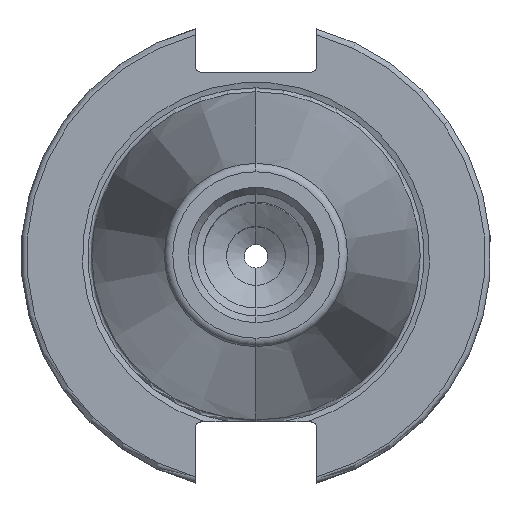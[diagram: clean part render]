
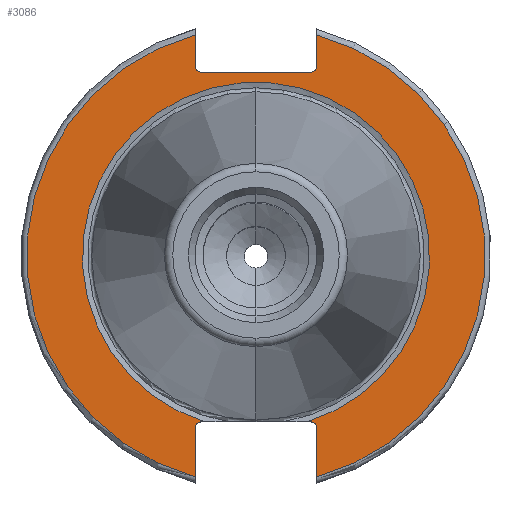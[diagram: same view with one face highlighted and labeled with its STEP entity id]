
A CAD part, top view. The second image highlights one B-rep face of the part: STEP entity #3086.
In plain terms, the highlighted planar face has unit normal (0, 0, 1).
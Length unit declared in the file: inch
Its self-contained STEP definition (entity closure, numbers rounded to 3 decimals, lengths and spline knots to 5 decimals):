
#11 = CARTESIAN_POINT ( 'NONE',  ( -0.27356, -0.8825, -0.125 ) ) ;
#48 = LINE ( 'NONE', #2393, #1151 ) ;
#52 = DIRECTION ( 'NONE',  ( 1., 0., 0. ) ) ;
#82 = EDGE_CURVE ( 'NONE', #2000, #1690, #2069, .T. ) ;
#97 = CARTESIAN_POINT ( 'NONE',  ( 1.22, 0.9775, -0.125 ) ) ;
#130 = EDGE_CURVE ( 'NONE', #1447, #787, #307, .T. ) ;
#140 = VERTEX_POINT ( 'NONE', #2355 ) ;
#151 = DIRECTION ( 'NONE',  ( 0., -1., 0. ) ) ;
#181 = VECTOR ( 'NONE', #1178, 39.37008 ) ;
#223 = ORIENTED_EDGE ( 'NONE', *, *, #3311, .T. ) ;
#274 = EDGE_CURVE ( 'NONE', #787, #3413, #2252, .T. ) ;
#279 = CARTESIAN_POINT ( 'NONE',  ( 0.27356, -0.8825, -0.125 ) ) ;
#291 = DIRECTION ( 'NONE',  ( 0., -1., 0. ) ) ;
#297 = VERTEX_POINT ( 'NONE', #1932 ) ;
#307 = LINE ( 'NONE', #638, #181 ) ;
#365 = ORIENTED_EDGE ( 'NONE', *, *, #542, .F. ) ;
#381 = LINE ( 'NONE', #97, #2401 ) ;
#453 = AXIS2_PLACEMENT_3D ( 'NONE', #1477, #3555, #2341 ) ;
#466 = LINE ( 'NONE', #713, #1860 ) ;
#503 = CARTESIAN_POINT ( 'NONE',  ( -0.3225, 1.1766, -0.125 ) ) ;
#542 = EDGE_CURVE ( 'NONE', #1133, #2000, #633, .T. ) ;
#580 = CARTESIAN_POINT ( 'NONE',  ( 0.3225, 0., -0.125 ) ) ;
#581 = CARTESIAN_POINT ( 'NONE',  ( 0.3225, 1.1766, -0.125 ) ) ;
#596 = EDGE_CURVE ( 'NONE', #1447, #771, #2951, .T. ) ;
#600 = DIRECTION ( 'NONE',  ( 0., -1., 0. ) ) ;
#606 = DIRECTION ( 'NONE',  ( 0., -1., 0. ) ) ;
#633 = CIRCLE ( 'NONE', #2114, 1.22 ) ;
#638 = CARTESIAN_POINT ( 'NONE',  ( 0.3225, 0., -0.125 ) ) ;
#642 = CARTESIAN_POINT ( 'NONE',  ( 0.2925, -0.8825, -0.125 ) ) ;
#660 = DIRECTION ( 'NONE',  ( 0., 0., -1. ) ) ;
#683 = VERTEX_POINT ( 'NONE', #642 ) ;
#713 = CARTESIAN_POINT ( 'NONE',  ( -0.3225, 0., -0.125 ) ) ;
#771 = VERTEX_POINT ( 'NONE', #3752 ) ;
#786 = AXIS2_PLACEMENT_3D ( 'NONE', #1184, #2343, #606 ) ;
#787 = VERTEX_POINT ( 'NONE', #581 ) ;
#796 = VERTEX_POINT ( 'NONE', #2656 ) ;
#819 = ORIENTED_EDGE ( 'NONE', *, *, #1413, .T. ) ;
#870 = CARTESIAN_POINT ( 'NONE',  ( -0.3225, 1.0075, -0.125 ) ) ;
#898 = VERTEX_POINT ( 'NONE', #11 ) ;
#1005 = CARTESIAN_POINT ( 'NONE',  ( 0.3225, -0.9125, -0.125 ) ) ;
#1048 = EDGE_CURVE ( 'NONE', #683, #3452, #2024, .T. ) ;
#1064 = AXIS2_PLACEMENT_3D ( 'NONE', #1598, #3001, #3022 ) ;
#1133 = VERTEX_POINT ( 'NONE', #2240 ) ;
#1151 = VECTOR ( 'NONE', #2107, 39.37008 ) ;
#1159 = DIRECTION ( 'NONE',  ( 0., 0., -1. ) ) ;
#1178 = DIRECTION ( 'NONE',  ( 0., 1., 0. ) ) ;
#1184 = CARTESIAN_POINT ( 'NONE',  ( 1.22, 0., -0.125 ) ) ;
#1186 = EDGE_LOOP ( 'NONE', ( #1977, #365, #1218, #2538, #2176, #2943, #223, #2168, #1376, #2402, #1403, #2717, #3420, #819 ) ) ;
#1218 = ORIENTED_EDGE ( 'NONE', *, *, #2277, .T. ) ;
#1246 = VERTEX_POINT ( 'NONE', #279 ) ;
#1253 = DIRECTION ( 'NONE',  ( 0., 1., 0. ) ) ;
#1288 = DIRECTION ( 'NONE',  ( 0., -1., 0. ) ) ;
#1314 = CARTESIAN_POINT ( 'NONE',  ( 0.3225, -1.1766, -0.125 ) ) ;
#1376 = ORIENTED_EDGE ( 'NONE', *, *, #1779, .T. ) ;
#1388 = EDGE_CURVE ( 'NONE', #297, #796, #2705, .T. ) ;
#1403 = ORIENTED_EDGE ( 'NONE', *, *, #130, .F. ) ;
#1413 = EDGE_CURVE ( 'NONE', #140, #1690, #1739, .T. ) ;
#1447 = VERTEX_POINT ( 'NONE', #2763 ) ;
#1477 = CARTESIAN_POINT ( 'NONE',  ( 0.2925, 1.0075, -0.125 ) ) ;
#1546 = DIRECTION ( 'NONE',  ( 1., 0., 0. ) ) ;
#1572 = AXIS2_PLACEMENT_3D ( 'NONE', #2787, #660, #1253 ) ;
#1598 = CARTESIAN_POINT ( 'NONE',  ( -0.2925, 1.0075, -0.125 ) ) ;
#1690 = VERTEX_POINT ( 'NONE', #870 ) ;
#1697 = CARTESIAN_POINT ( 'NONE',  ( 0., 0., -0.125 ) ) ;
#1739 = CIRCLE ( 'NONE', #1064, 0.03 ) ;
#1754 = EDGE_CURVE ( 'NONE', #898, #1246, #3129, .T. ) ;
#1779 = EDGE_CURVE ( 'NONE', #3452, #3413, #1991, .T. ) ;
#1825 = LINE ( 'NONE', #2397, #3782 ) ;
#1860 = VECTOR ( 'NONE', #2196, 39.37008 ) ;
#1932 = CARTESIAN_POINT ( 'NONE',  ( -0.3225, -0.9125, -0.125 ) ) ;
#1977 = ORIENTED_EDGE ( 'NONE', *, *, #82, .F. ) ;
#1991 = LINE ( 'NONE', #580, #3073 ) ;
#2000 = VERTEX_POINT ( 'NONE', #503 ) ;
#2024 = CIRCLE ( 'NONE', #2520, 0.03 ) ;
#2069 = LINE ( 'NONE', #3217, #2213 ) ;
#2107 = DIRECTION ( 'NONE',  ( 1., 0., 0. ) ) ;
#2114 = AXIS2_PLACEMENT_3D ( 'NONE', #1697, #3734, #3167 ) ;
#2155 = CARTESIAN_POINT ( 'NONE',  ( -0.2925, -0.9125, -0.125 ) ) ;
#2168 = ORIENTED_EDGE ( 'NONE', *, *, #1048, .T. ) ;
#2173 = DIRECTION ( 'NONE',  ( 0., 0., -1. ) ) ;
#2176 = ORIENTED_EDGE ( 'NONE', *, *, #3257, .T. ) ;
#2196 = DIRECTION ( 'NONE',  ( 0., 1., 0. ) ) ;
#2199 = EDGE_CURVE ( 'NONE', #140, #771, #381, .T. ) ;
#2213 = VECTOR ( 'NONE', #600, 39.37008 ) ;
#2240 = CARTESIAN_POINT ( 'NONE',  ( -0.3225, -1.1766, -0.125 ) ) ;
#2252 = CIRCLE ( 'NONE', #1572, 1.22 ) ;
#2277 = EDGE_CURVE ( 'NONE', #1133, #297, #466, .T. ) ;
#2305 = FACE_OUTER_BOUND ( 'NONE', #1186, .T. ) ;
#2341 = DIRECTION ( 'NONE',  ( 0., -1., 0. ) ) ;
#2343 = DIRECTION ( 'NONE',  ( 0., 0., 1. ) ) ;
#2355 = CARTESIAN_POINT ( 'NONE',  ( -0.2925, 0.9775, -0.125 ) ) ;
#2393 = CARTESIAN_POINT ( 'NONE',  ( 1.22, -0.8825, -0.125 ) ) ;
#2397 = CARTESIAN_POINT ( 'NONE',  ( 1.22, -0.8825, -0.125 ) ) ;
#2401 = VECTOR ( 'NONE', #1546, 39.37008 ) ;
#2402 = ORIENTED_EDGE ( 'NONE', *, *, #274, .F. ) ;
#2520 = AXIS2_PLACEMENT_3D ( 'NONE', #2806, #2173, #1288 ) ;
#2529 = AXIS2_PLACEMENT_3D ( 'NONE', #3497, #1159, #2898 ) ;
#2538 = ORIENTED_EDGE ( 'NONE', *, *, #1388, .T. ) ;
#2656 = CARTESIAN_POINT ( 'NONE',  ( -0.2925, -0.8825, -0.125 ) ) ;
#2705 = CIRCLE ( 'NONE', #2886, 0.03 ) ;
#2717 = ORIENTED_EDGE ( 'NONE', *, *, #596, .T. ) ;
#2763 = CARTESIAN_POINT ( 'NONE',  ( 0.3225, 1.0075, -0.125 ) ) ;
#2787 = CARTESIAN_POINT ( 'NONE',  ( 0., 0., -0.125 ) ) ;
#2806 = CARTESIAN_POINT ( 'NONE',  ( 0.2925, -0.9125, -0.125 ) ) ;
#2886 = AXIS2_PLACEMENT_3D ( 'NONE', #2155, #3660, #151 ) ;
#2898 = DIRECTION ( 'NONE',  ( 0., 1., 0. ) ) ;
#2943 = ORIENTED_EDGE ( 'NONE', *, *, #1754, .T. ) ;
#2951 = CIRCLE ( 'NONE', #453, 0.03 ) ;
#2957 = PLANE ( 'NONE',  #786 ) ;
#3001 = DIRECTION ( 'NONE',  ( 0., 0., -1. ) ) ;
#3022 = DIRECTION ( 'NONE',  ( 0., -1., 0. ) ) ;
#3073 = VECTOR ( 'NONE', #291, 39.37008 ) ;
#3086 = ADVANCED_FACE ( 'NONE', ( #2305 ), #2957, .T. ) ;
#3129 = CIRCLE ( 'NONE', #2529, 0.92393 ) ;
#3167 = DIRECTION ( 'NONE',  ( 0., 1., 0. ) ) ;
#3217 = CARTESIAN_POINT ( 'NONE',  ( -0.3225, 0., -0.125 ) ) ;
#3257 = EDGE_CURVE ( 'NONE', #796, #898, #1825, .T. ) ;
#3311 = EDGE_CURVE ( 'NONE', #1246, #683, #48, .T. ) ;
#3413 = VERTEX_POINT ( 'NONE', #1314 ) ;
#3420 = ORIENTED_EDGE ( 'NONE', *, *, #2199, .F. ) ;
#3452 = VERTEX_POINT ( 'NONE', #1005 ) ;
#3497 = CARTESIAN_POINT ( 'NONE',  ( 0., 0., -0.125 ) ) ;
#3555 = DIRECTION ( 'NONE',  ( 0., 0., -1. ) ) ;
#3660 = DIRECTION ( 'NONE',  ( 0., 0., -1. ) ) ;
#3734 = DIRECTION ( 'NONE',  ( 0., 0., -1. ) ) ;
#3752 = CARTESIAN_POINT ( 'NONE',  ( 0.2925, 0.9775, -0.125 ) ) ;
#3782 = VECTOR ( 'NONE', #52, 39.37008 ) ;
